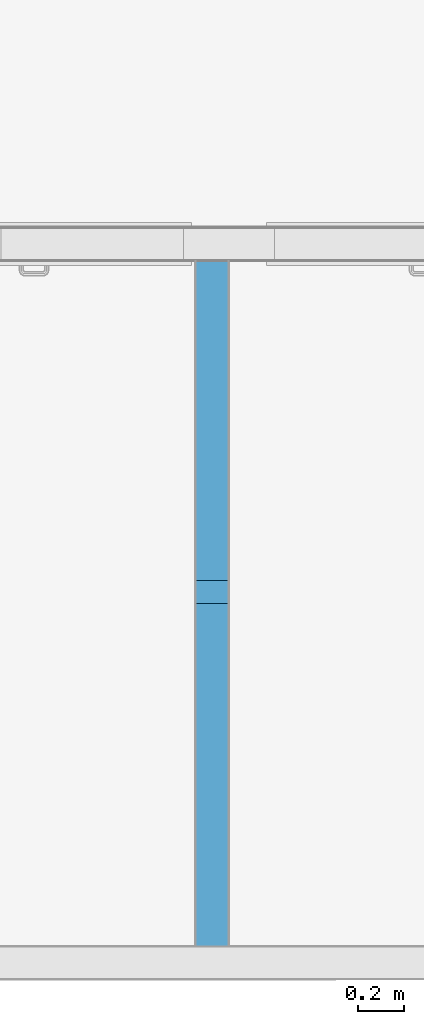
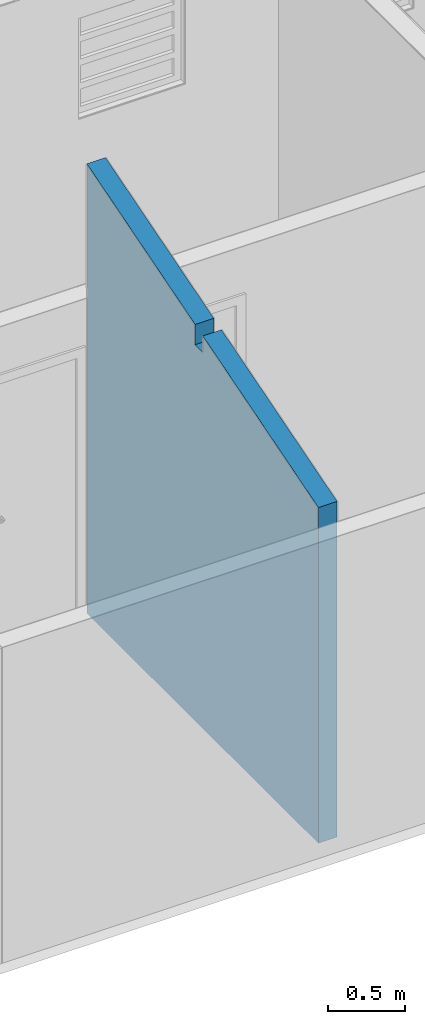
# One storey, part 2 of 11: 1 building element part, 1 element without a shape of its own.
"""IFC2X3 building model written with IfcOpenShell, lengths in millimetres."""

from ifc_helpers import new_model, entity, si_unit, converted_unit, derived_unit, money_unit, direction, frame, origin_with_axes, place, context, subcontext, project, spatial, polyline, outline, extrude, boolean, faceted_brep, material, type_object, element, aggregate, save


model = new_model("IFC2X3")

# Units and contexts
model_context = context("Model", 3, precision=0.01, world=origin_with_axes(), true_north=direction((0.0, 1.0)))
body_context = subcontext(model_context, "Body", "Model", "MODEL_VIEW")
ifc_project = project(units=[si_unit("LENGTHUNIT", "METRE", prefix="MILLI"), si_unit("AREAUNIT", "SQUARE_METRE"), si_unit("VOLUMEUNIT", "CUBIC_METRE"), converted_unit("PLANEANGLEUNIT", "DEGREE", entity("IfcPlaneAngleMeasure", 0.0174532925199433), si_unit("PLANEANGLEUNIT", "RADIAN"), dimensions=[0, 0, 0, 0, 0, 0, 0]), money_unit("USD"), converted_unit("TIMEUNIT", "Year", entity("IfcTimeMeasure", 31557600.0), si_unit("TIMEUNIT", "SECOND"), dimensions=[0, 0, 1, 0, 0, 0, 0]), si_unit("MASSUNIT", "GRAM", prefix="KILO"), si_unit("THERMODYNAMICTEMPERATUREUNIT", "DEGREE_CELSIUS"), si_unit("LUMINOUSINTENSITYUNIT", "LUMEN"), si_unit("ENERGYUNIT", "JOULE", prefix="MEGA"), derived_unit("THERMALCONDUCTANCEUNIT", [(si_unit("POWERUNIT", "WATT"), 1), (si_unit("LENGTHUNIT", "METRE"), -1), (si_unit("THERMODYNAMICTEMPERATUREUNIT", "KELVIN"), -1)]), derived_unit("SPECIFICHEATCAPACITYUNIT", [(si_unit("ENERGYUNIT", "JOULE"), 1), (si_unit("MASSUNIT", "GRAM", prefix="KILO"), -1), (si_unit("THERMODYNAMICTEMPERATUREUNIT", "KELVIN"), -1)]), derived_unit("MASSDENSITYUNIT", [(si_unit("MASSUNIT", "GRAM", prefix="KILO"), 1), (si_unit("VOLUMEUNIT", "CUBIC_METRE"), -1)])], contexts=[model_context])

# Site, building, storey
site_placement = place(None, origin_with_axes())
site = spatial("IfcSite", under=ifc_project, at=site_placement, Name="Local", CompositionType="ELEMENT")
building_placement = place(site_placement, origin_with_axes())
building = spatial("IfcBuilding", under=site, at=building_placement, Name="Construção", CompositionType="ELEMENT")
storey_placement = place(building_placement, origin_with_axes())
storey = spatial("IfcBuildingStorey", under=building, at=storey_placement, Name="Pavimento Térreo", CompositionType="ELEMENT", Elevation=0.0)

# Wall, building element part
wall_type = type_object("IfcWallType", Name="Alvenaria 140, Rebocada 2 Faces 150", PredefinedType="NOTDEFINED")
wall_placement = place(storey_placement, frame((2750.0, 150.0000000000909, 0.0), z_axis=(0.0, 0.0, 1.0), x_axis=(0.0, 1.0, 0.0)))
wall = element("IfcWall", 1, at=wall_placement, inside=storey, type_object=wall_type, Name="Parede-06")
ifc_material = material(Name="Bloco de Concreto - Estrutural DEF")
building_element_part_placement = place(wall_placement, origin_with_axes())
building_element_part = element("IfcBuildingElementPart", 2, at=building_element_part_placement, material=ifc_material, Name="Bloco de Concreto - Estrutural DEF", context=body_context, shape_type="CSG", body=[
    boolean("DIFFERENCE", boolean("DIFFERENCE", boolean("DIFFERENCE", boolean("DIFFERENCE", boolean("DIFFERENCE", boolean("DIFFERENCE", boolean("DIFFERENCE", extrude(outline(polyline([(0.0, 4.999999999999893), (3005.000000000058, 4.999999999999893), (3005.000000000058, 145.0), (0.0, 145.0), (0.0, 4.999999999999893)])), origin_with_axes(), (0.0, 0.0, 1.0), 5897.788795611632), faceted_brep([(3005.000000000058, 0.0, 2500.0), (3005.000000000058, 4.999999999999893, 2500.0), (3005.000000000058, 4.999999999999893, 2580.0), (3005.000000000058, 0.0, 2580.0), (2999.999999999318, 0.0, 2500.0), (2999.999999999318, 4.999999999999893, 2500.0), (2999.999999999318, 4.999999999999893, 2580.0), (2999.999999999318, 0.0, 2580.0)], [[[0, 1, 2, 3]], [[1, 0, 4, 5]], [[6, 2, 1, 5]], [[7, 3, 2, 6]], [[4, 0, 3, 7]], [[4, 7, 6, 5]]])), faceted_brep([(1600.000000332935, 0.0, 2980.451740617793), (1600.000000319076, 0.0, 3140.451740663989), (3005.000000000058, 0.0, 3561.951740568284), (3005.000000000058, 0.0, 5897.788795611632), (0.0, 0.0, 5897.788795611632), (0.0, 0.0, 2660.451740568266), (1500.000000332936, 0.0, 3110.451740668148), (1500.000000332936, 0.0, 2980.451740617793), (1600.000000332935, 4.999999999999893, 2980.451740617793), (1600.000000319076, 4.999999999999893, 3140.451740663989), (3005.000000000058, 4.999999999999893, 3561.951740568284), (3005.000000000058, 4.999999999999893, 5897.788795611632), (0.0, 4.999999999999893, 5897.788795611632), (0.0, 4.999999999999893, 2660.451740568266), (1500.000000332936, 4.999999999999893, 3110.451740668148), (1500.000000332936, 4.999999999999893, 2980.451740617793)], [[[0, 1, 2, 3, 4, 5, 6, 7]], [[1, 0, 8, 9]], [[10, 2, 1, 9]], [[2, 10, 11, 3]], [[12, 4, 3, 11]], [[13, 5, 4, 12]], [[6, 5, 13, 14]], [[7, 6, 14, 15]], [[0, 7, 15, 8]], [[14, 13, 12, 11, 10, 9, 8, 15]]])), faceted_brep([(3005.000000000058, 4.999999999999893, 2500.0), (3005.000000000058, 145.0000000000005, 2500.0), (3005.000000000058, 145.0000000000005, 2580.0), (3005.000000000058, 4.999999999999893, 2580.0), (2999.999999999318, 4.999999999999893, 2500.0), (2999.999999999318, 145.0000000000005, 2500.0), (2999.999999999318, 145.0000000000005, 2580.0), (2999.999999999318, 4.999999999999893, 2580.0)], [[[0, 1, 2, 3]], [[1, 0, 4, 5]], [[6, 2, 1, 5]], [[3, 2, 6, 7]], [[4, 0, 3, 7]], [[6, 5, 4, 7]]])), faceted_brep([(1600.000000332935, 4.999999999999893, 2980.451740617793), (1600.000000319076, 4.999999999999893, 3140.451740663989), (3005.000000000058, 4.999999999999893, 3561.951740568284), (3005.000000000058, 4.999999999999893, 5897.788795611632), (0.0, 4.999999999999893, 5897.788795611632), (0.0, 4.999999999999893, 2660.451740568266), (1500.000000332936, 4.999999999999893, 3110.451740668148), (1500.000000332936, 4.999999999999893, 2980.451740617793), (1600.000000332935, 145.0000000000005, 2980.451740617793), (1600.000000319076, 145.0000000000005, 3140.451740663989), (3005.000000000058, 145.0000000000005, 3561.951740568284), (3005.000000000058, 145.0, 5897.788795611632), (0.0, 145.0, 5897.788795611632), (0.0, 145.0000000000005, 2660.451740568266), (1500.000000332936, 145.0000000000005, 3110.451740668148), (1500.000000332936, 145.0000000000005, 2980.451740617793)], [[[0, 1, 2, 3, 4, 5, 6, 7]], [[1, 0, 8, 9]], [[10, 2, 1, 9]], [[2, 10, 11, 3]], [[12, 4, 3, 11]], [[13, 5, 4, 12]], [[6, 5, 13, 14]], [[14, 15, 7, 6]], [[15, 8, 0, 7]], [[14, 13, 12, 11, 10, 9, 8, 15]]])), faceted_brep([(3000.000011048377, 145.0000000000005, 9.999999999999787), (0.0, 145.0, 9.999999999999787), (0.0, 145.0, 0.0), (3000.000011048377, 145.0, 0.0), (3000.000011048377, 149.9999999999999, 9.999999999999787), (0.0, 149.9999999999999, 9.999999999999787), (0.0, 149.9999999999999, 0.0), (3000.000011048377, 149.9999999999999, 0.0)], [[[0, 1, 2, 3]], [[1, 0, 4, 5]], [[1, 5, 6, 2]], [[7, 3, 2, 6]], [[0, 3, 7, 4]], [[4, 7, 6, 5]]])), faceted_brep([(3005.000000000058, 145.0000000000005, 2500.0), (3005.000000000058, 150.0000000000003, 2500.0), (3005.000000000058, 150.0000000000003, 2580.0), (3005.000000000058, 145.0000000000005, 2580.0), (2999.999999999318, 145.0000000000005, 2500.0), (2999.999999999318, 150.0000000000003, 2500.0), (2999.999999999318, 150.0000000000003, 2580.0), (2999.999999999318, 145.0000000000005, 2580.0)], [[[0, 1, 2, 3]], [[1, 0, 4, 5]], [[6, 2, 1, 5]], [[3, 2, 6, 7]], [[4, 0, 3, 7]], [[6, 5, 4, 7]]])), faceted_brep([(1600.000000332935, 145.0000000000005, 2980.451740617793), (1600.000000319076, 145.0000000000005, 3140.451740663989), (3005.000000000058, 145.0000000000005, 3561.951740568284), (3005.000000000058, 145.0, 5897.788795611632), (0.0, 145.0, 5897.788795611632), (0.0, 145.0000000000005, 2660.451740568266), (1500.000000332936, 145.0000000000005, 3110.451740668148), (1500.000000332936, 145.0000000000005, 2980.451740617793), (1600.000000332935, 150.0000000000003, 2980.451740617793), (1600.000000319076, 150.0000000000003, 3140.451740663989), (3005.000000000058, 150.0000000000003, 3561.951740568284), (3005.000000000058, 149.9999999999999, 5897.788795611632), (0.0, 149.9999999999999, 5897.788795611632), (0.0, 150.0000000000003, 2660.451740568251), (1500.000000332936, 150.0000000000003, 3110.451740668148), (1500.000000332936, 150.0000000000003, 2980.451740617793)], [[[0, 1, 2, 3, 4, 5, 6, 7]], [[8, 9, 1, 0]], [[10, 2, 1, 9]], [[2, 10, 11, 3]], [[12, 4, 3, 11]], [[13, 5, 4, 12]], [[6, 5, 13, 14]], [[14, 15, 7, 6]], [[15, 8, 0, 7]], [[14, 13, 12, 11, 10, 9, 8, 15]]])),
])
aggregate(wall, [building_element_part])

save(model, "model.ifc")
